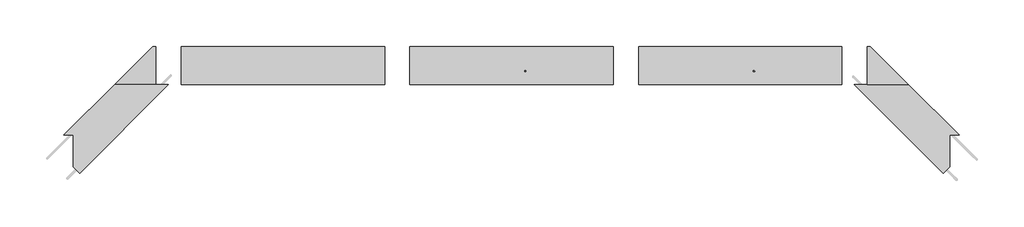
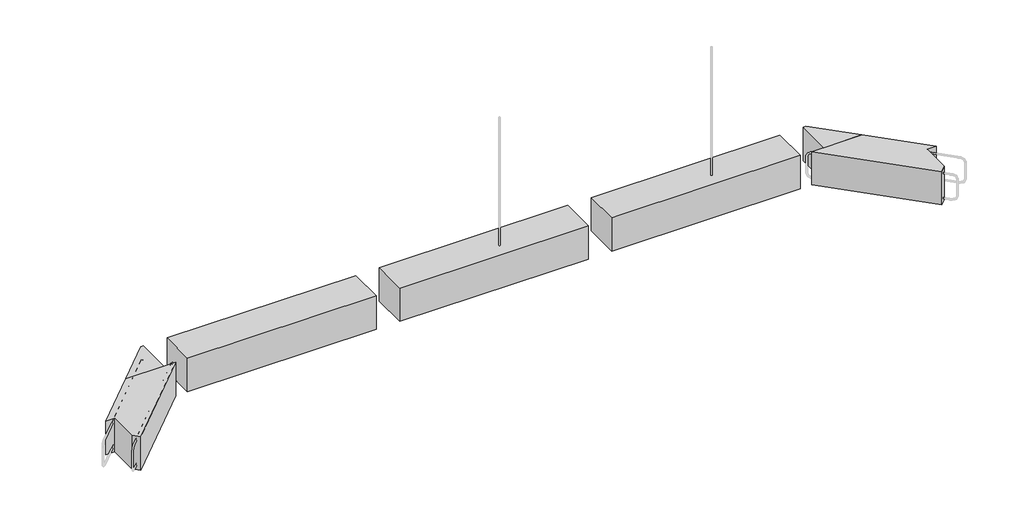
# One storey, part 1 of 2: 3 beams.
"""IFC4 building model written with IfcOpenShell, lengths in millimetres."""

from ifc_helpers import new_model, si_unit, frame, origin, place, context, project, spatial, polyline, outline, extrude, faceted_brep, element, save

model = new_model("IFC4")

# Units and contexts
model_context = context("Model", 3, world=origin())
ifc_project = project(units=[si_unit("LENGTHUNIT", "METRE", prefix="MILLI")], contexts=[model_context])

# Site, building, storey
site = spatial("IfcSite", under=ifc_project)
building = spatial("IfcBuilding", under=site)
storey = spatial("IfcBuildingStorey", under=building, Name="Nível 3", Elevation=-1000.0)

# Beams
placement = place(None, origin())
element("IfcBeam", 1, ObjectType="Concreto-Viga Retangular1 : 30x30", at=placement, inside=storey, context=model_context, shape_type="SweptSolid", body=[
    extrude(outline(polyline([(5666.2870203, 2640.7417523), (5966.2870203, 2340.7417523), (5644.5531607, 2340.7417523), (5644.5531607, 2640.7417523), (5666.2870203, 2640.7417523)])), frame((0.0, 0.0, -300.0), z_axis=(0.0, 0.0, 1.0), x_axis=(1.0, 0.0, 0.0)), (0.0, 0.0, 1.0), 300.0),
    extrude(outline(polyline([(-280.1529624, 2340.7417523), (19.5752361, 2640.7417523), (44.5531607, 2640.7417523), (44.5531607, 2340.7417523), (-280.1529624, 2340.7417523)])), frame((0.0, 0.0, -300.0), z_axis=(0.0, 0.0, 1.0), x_axis=(1.0, 0.0, 0.0)), (0.0, 0.0, 1.0), 300.0),
    extrude(outline(polyline([(244.5531607, 2340.7417523), (244.5531607, 2640.7417523), (1844.5531607, 2640.7417523), (1844.5531607, 2340.7417523), (244.5531607, 2340.7417523)])), frame((0.0, 0.0, -300.0), z_axis=(0.0, 0.0, 1.0), x_axis=(1.0, 0.0, 0.0)), (0.0, 0.0, 1.0), 300.0),
    extrude(outline(polyline([(5444.5531607, 2640.7417523), (5444.5531607, 2340.7417523), (3844.5531607, 2340.7417523), (3844.5531607, 2640.7417523), (5444.5531607, 2640.7417523)])), frame((0.0, 0.0, -300.0), z_axis=(0.0, 0.0, 1.0), x_axis=(1.0, 0.0, 0.0)), (0.0, 0.0, 1.0), 300.0),
    extrude(outline(polyline([(3644.5531607, 2640.7417523), (3644.5531607, 2340.7417523), (2044.5531607, 2340.7417523), (2044.5531607, 2640.7417523), (3644.5531607, 2640.7417523)])), frame((0.0, 0.0, -300.0), z_axis=(0.0, 0.0, 1.0), x_axis=(1.0, 0.0, 0.0)), (0.0, 0.0, 1.0), 300.0),
])
element("IfcBeam", 2, ObjectType="Concreto-Viga Retangular1 : 30x30", at=placement, inside=storey, context=model_context, shape_type="Brep", body=[
    faceted_brep([(5966.2870203, 2340.7417523, 0.0), (5644.5531607, 2340.7417523, 0.0), (5542.0229516, 2340.7417523, 0.0), (6242.0229516, 1640.7417523, 0.0), (6292.0229516, 1690.7417523, 0.0), (6292.0229516, 1940.7417523, 0.0), (6366.2870203, 1940.7417523, 0.0), (5542.0229516, 2340.7417523, -150.0), (5542.0229516, 2340.7417523, -300.0), (6242.0229516, 1640.7417523, -300.0), (6242.0229516, 1640.7417523, -150.0), (5644.5531607, 2340.7417523, -300.0), (5966.2870203, 2340.7417523, -300.0), (6366.2870203, 1940.7417523, -300.0), (6292.0229516, 1940.7417523, -300.0), (6292.0229516, 1690.7417523, -300.0)], [[[0, 1, 2, 3, 4, 5, 6]], [[3, 2, 7, 8, 9, 10]], [[8, 11, 12, 13, 14, 15, 9]], [[12, 0, 6, 13]], [[2, 1, 0, 12, 11, 8, 7]], [[14, 5, 4, 15]], [[5, 14, 13, 6]], [[4, 3, 10, 9, 15]]]),
])
element("IfcBeam", 3, ObjectType="Concreto-Viga Retangular1 : 30x30", at=placement, inside=storey, context=model_context, shape_type="Brep", body=[
    faceted_brep([(143.9189572, 2340.7417523, 0.0), (44.5531607, 2340.7417523, 0.0), (-280.1529624, 2340.7417523, 0.0), (-679.7905604, 1940.7417523, 0.0), (-605.4468393, 1940.7417523, 0.0), (-605.4468393, 1690.7925484, 0.0), (-555.3987911, 1640.789844, 0.0), (-280.1529624, 2340.7417523, -300.0), (-679.7905604, 1940.7417523, -300.0), (44.5531607, 2340.7417523, -300.0), (143.9189572, 2340.7417523, -300.0), (-555.3987911, 1640.789844, -300.0), (-605.4468393, 1690.7925484, -300.0), (-605.4468393, 1940.7417523, -300.0), (143.9189572, 2340.7417523, -150.0), (-555.3987911, 1640.789844, -150.0)], [[[0, 1, 2, 3, 4, 5, 6]], [[2, 7, 8, 3]], [[7, 9, 10, 11, 12, 13, 8]], [[10, 14, 0, 6, 15, 11]], [[2, 1, 0, 14, 10, 9, 7]], [[15, 6, 5, 12, 11]], [[4, 13, 12, 5]], [[13, 4, 3, 8]]]),
])

save(model, "model.ifc")
